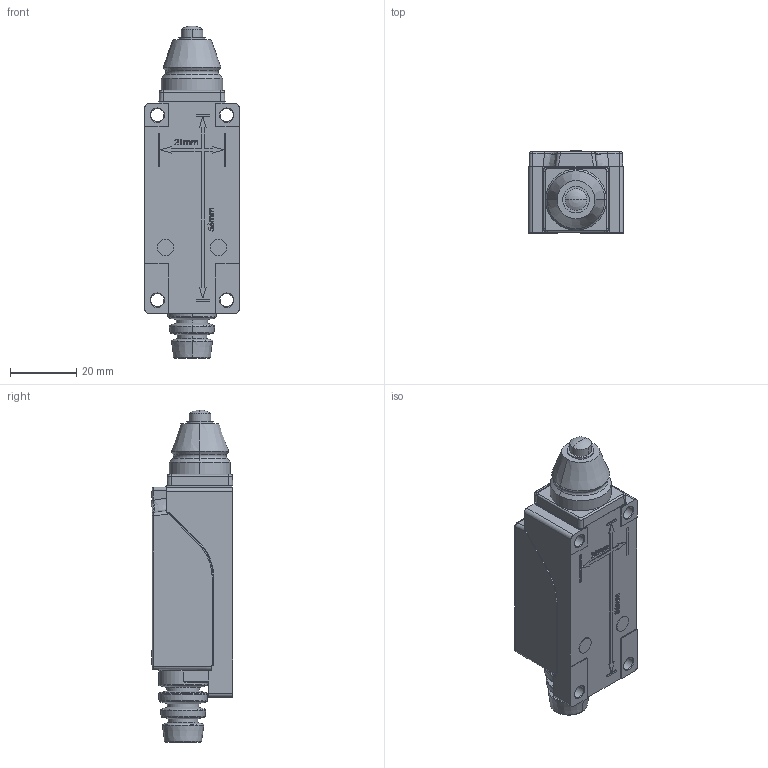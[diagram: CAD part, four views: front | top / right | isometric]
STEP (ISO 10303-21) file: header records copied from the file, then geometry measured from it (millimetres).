
FILE_DESCRIPTION((''),'2;1');
FILE_NAME('ALS1-M11_A2_ASM','2019-02-20T15:16:16',('1'),(''),'CREO PARAMETRIC BY PTC INC, 2016510','CREO PARAMETRIC BY PTC INC, 2016510','');
FILE_SCHEMA(('CONFIG_CONTROL_DESIGN'));
Products named in the file (1): ALS1-M11_A2_ASM
Bounding box: 28.5 x 24.8 x 100.5 mm (x, y, z)
Volume: 19168.4 mm3; surface area: 24448 mm2
Topology: 1 solids, 17 shells, 1224 faces, 3219 edges, 2036 vertices
Faces by surface type: plane 508, cylinder 381, torus 101, cone 86, extrusion 61, bspline 57, sphere 30
Entity records: 49415 total; most frequent: CARTESIAN_POINT 19630, ORIENTED_EDGE 6331, DIRECTION 6006, EDGE_CURVE 3187, AXIS2_PLACEMENT_3D 2131, VERTEX_POINT 2036, VECTOR 1744, LINE 1683
